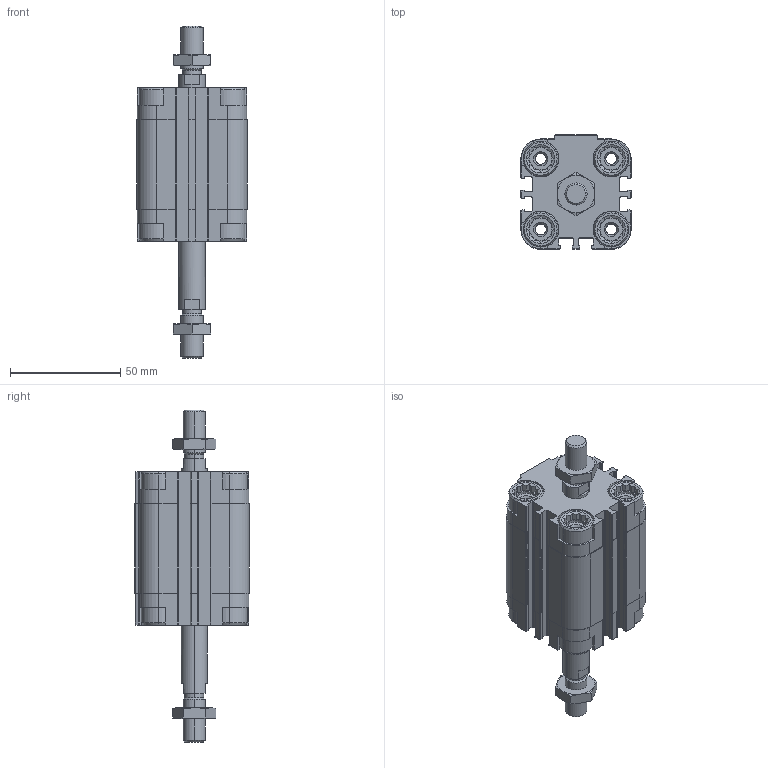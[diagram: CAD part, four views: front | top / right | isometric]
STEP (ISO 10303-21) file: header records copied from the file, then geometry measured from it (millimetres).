
FILE_DESCRIPTION (( 'STEP AP203' ), '1' );
FILE_NAME ('CDVU32-25M-P.STEP', '2020-07-21T15:14:18', ( '' ), ( '' ), 'SwSTEP 2.0', 'SolidWorks 2019', '' );
FILE_SCHEMA (( 'CONFIG_CONTROL_DESIGN' ));
Length unit declared in the file: millimetre
Products named in the file (1): CDVU32-25M-P
Bounding box: 50 x 52 x 150.5 mm (x, y, z)
Volume: 133840.7 mm3; surface area: 47743.8 mm2
Topology: 4 solids, 4 shells, 758 faces, 2004 edges, 1290 vertices
Faces by surface type: plane 438, cylinder 240, cone 80
Entity records: 24115 total; most frequent: CARTESIAN_POINT 5193, ORIENTED_EDGE 4000, DIRECTION 3862, EDGE_CURVE 2000, AXIS2_PLACEMENT_3D 1319, VERTEX_POINT 1290, LINE 1224, VECTOR 1224
